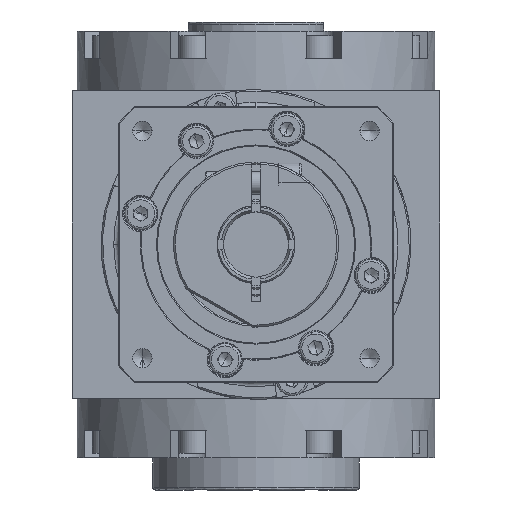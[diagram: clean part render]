
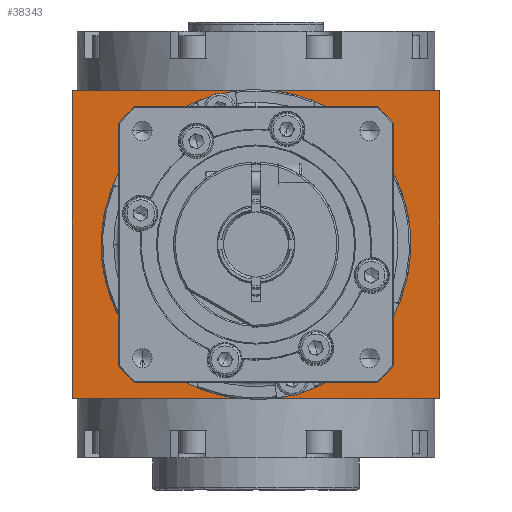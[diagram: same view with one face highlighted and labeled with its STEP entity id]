
A CAD part, front view. The second image highlights one B-rep face of the part: STEP entity #38343.
In plain terms, the highlighted planar face has unit normal (0, -1, 0).
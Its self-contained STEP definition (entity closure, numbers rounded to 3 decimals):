
#470 = ORIENTED_EDGE ( 'NONE', *, *, #11373, .T. ) ;
#1455 = ORIENTED_EDGE ( 'NONE', *, *, #3145, .T. ) ;
#2870 = VECTOR ( 'NONE', #5567, 1000. ) ;
#3145 = EDGE_CURVE ( 'NONE', #11934, #12409, #38295, .T. ) ;
#3760 = FACE_OUTER_BOUND ( 'NONE', #18130, .T. ) ;
#3943 = DIRECTION ( 'NONE',  ( 0., 0., -1. ) ) ;
#4432 = ORIENTED_EDGE ( 'NONE', *, *, #19892, .T. ) ;
#4690 = VECTOR ( 'NONE', #22491, 1000. ) ;
#5378 = EDGE_CURVE ( 'NONE', #27549, #11934, #16659, .T. ) ;
#5567 = DIRECTION ( 'NONE',  ( 0., 0., -1. ) ) ;
#6232 = DIRECTION ( 'NONE',  ( 1., 0., 0. ) ) ;
#6505 = CARTESIAN_POINT ( 'NONE',  ( 26.458, -40., -30. ) ) ;
#6642 = VERTEX_POINT ( 'NONE', #19797 ) ;
#7074 = DIRECTION ( 'NONE',  ( 0., 0., -1. ) ) ;
#7102 = CIRCLE ( 'NONE', #29799, 40. ) ;
#7135 = VECTOR ( 'NONE', #37434, 1000. ) ;
#7317 = CARTESIAN_POINT ( 'NONE',  ( -26.458, -40., -30. ) ) ;
#8192 = ORIENTED_EDGE ( 'NONE', *, *, #33681, .T. ) ;
#9883 = CARTESIAN_POINT ( 'NONE',  ( -40., -40., -33.5 ) ) ;
#10047 = VERTEX_POINT ( 'NONE', #18006 ) ;
#10769 = CARTESIAN_POINT ( 'NONE',  ( -40., -40., -30. ) ) ;
#10961 = LINE ( 'NONE', #20040, #7135 ) ;
#11017 = CARTESIAN_POINT ( 'NONE',  ( 40., -40., -33.5 ) ) ;
#11373 = EDGE_CURVE ( 'NONE', #33586, #6642, #31106, .T. ) ;
#11934 = VERTEX_POINT ( 'NONE', #23058 ) ;
#11948 = CARTESIAN_POINT ( 'NONE',  ( 0., -40., 0. ) ) ;
#12115 = CARTESIAN_POINT ( 'NONE',  ( -40., -40., 30. ) ) ;
#12246 = EDGE_CURVE ( 'NONE', #15401, #20362, #16681, .T. ) ;
#12409 = VERTEX_POINT ( 'NONE', #23150 ) ;
#12936 = AXIS2_PLACEMENT_3D ( 'NONE', #18936, #21690, #30804 ) ;
#13177 = VERTEX_POINT ( 'NONE', #14704 ) ;
#13980 = ORIENTED_EDGE ( 'NONE', *, *, #5378, .T. ) ;
#14294 = ORIENTED_EDGE ( 'NONE', *, *, #37254, .T. ) ;
#14496 = LINE ( 'NONE', #12115, #17949 ) ;
#14704 = CARTESIAN_POINT ( 'NONE',  ( 40., -40., 33.5 ) ) ;
#14725 = ORIENTED_EDGE ( 'NONE', *, *, #29733, .F. ) ;
#15113 = CARTESIAN_POINT ( 'NONE',  ( -30., -40., 26.458 ) ) ;
#15401 = VERTEX_POINT ( 'NONE', #6505 ) ;
#15984 = FACE_BOUND ( 'NONE', #16837, .T. ) ;
#16296 = ORIENTED_EDGE ( 'NONE', *, *, #34441, .T. ) ;
#16592 = AXIS2_PLACEMENT_3D ( 'NONE', #24510, #36770, #28261 ) ;
#16659 = CIRCLE ( 'NONE', #26725, 40. ) ;
#16681 = LINE ( 'NONE', #10769, #23611 ) ;
#16711 = ORIENTED_EDGE ( 'NONE', *, *, #36690, .T. ) ;
#16837 = EDGE_LOOP ( 'NONE', ( #1455, #14294, #36527, #31620, #4432, #470, #16711, #13980 ) ) ;
#17320 = DIRECTION ( 'NONE',  ( 0., 0., -1. ) ) ;
#17918 = EDGE_CURVE ( 'NONE', #13177, #10047, #37934, .T. ) ;
#17949 = VECTOR ( 'NONE', #38423, 1000. ) ;
#18006 = CARTESIAN_POINT ( 'NONE',  ( -40., -40., 33.5 ) ) ;
#18130 = EDGE_LOOP ( 'NONE', ( #16296, #8192, #14725, #32053 ) ) ;
#18927 = LINE ( 'NONE', #36730, #28422 ) ;
#18936 = CARTESIAN_POINT ( 'NONE',  ( 0., -40., 0. ) ) ;
#19797 = CARTESIAN_POINT ( 'NONE',  ( -26.458, -40., 30. ) ) ;
#19892 = EDGE_CURVE ( 'NONE', #23856, #33586, #10961, .T. ) ;
#20040 = CARTESIAN_POINT ( 'NONE',  ( -30., -40., -33.5 ) ) ;
#20298 = DIRECTION ( 'NONE',  ( 0., 1., 0. ) ) ;
#20358 = VECTOR ( 'NONE', #17320, 1000. ) ;
#20362 = VERTEX_POINT ( 'NONE', #7317 ) ;
#20608 = AXIS2_PLACEMENT_3D ( 'NONE', #9883, #22080, #3943 ) ;
#21690 = DIRECTION ( 'NONE',  ( 0., 1., 0. ) ) ;
#21739 = CARTESIAN_POINT ( 'NONE',  ( 26.458, -40., 30. ) ) ;
#21955 = DIRECTION ( 'NONE',  ( 0., 0., 1. ) ) ;
#22080 = DIRECTION ( 'NONE',  ( 0., -1., 0. ) ) ;
#22491 = DIRECTION ( 'NONE',  ( -1., 0., 0. ) ) ;
#22868 = CARTESIAN_POINT ( 'NONE',  ( -40., -40., 33.5 ) ) ;
#23058 = CARTESIAN_POINT ( 'NONE',  ( 30., -40., 26.458 ) ) ;
#23150 = CARTESIAN_POINT ( 'NONE',  ( 30., -40., -26.458 ) ) ;
#23237 = CARTESIAN_POINT ( 'NONE',  ( 30., -40., -33.5 ) ) ;
#23611 = VECTOR ( 'NONE', #32235, 1000. ) ;
#23856 = VERTEX_POINT ( 'NONE', #30957 ) ;
#23974 = VERTEX_POINT ( 'NONE', #11017 ) ;
#24510 = CARTESIAN_POINT ( 'NONE',  ( 0., -40., 0. ) ) ;
#26604 = CARTESIAN_POINT ( 'NONE',  ( 0., -40., 0. ) ) ;
#26725 = AXIS2_PLACEMENT_3D ( 'NONE', #11948, #37011, #21955 ) ;
#27549 = VERTEX_POINT ( 'NONE', #21739 ) ;
#28261 = DIRECTION ( 'NONE',  ( 0., 0., 1. ) ) ;
#28422 = VECTOR ( 'NONE', #7074, 1000. ) ;
#29450 = CARTESIAN_POINT ( 'NONE',  ( -40., -40., -33.5 ) ) ;
#29733 = EDGE_CURVE ( 'NONE', #13177, #23974, #18927, .T. ) ;
#29799 = AXIS2_PLACEMENT_3D ( 'NONE', #26604, #20298, #32340 ) ;
#29915 = VECTOR ( 'NONE', #6232, 1000. ) ;
#29952 = CIRCLE ( 'NONE', #12936, 40. ) ;
#30804 = DIRECTION ( 'NONE',  ( 0., 0., 1. ) ) ;
#30892 = LINE ( 'NONE', #31073, #29915 ) ;
#30957 = CARTESIAN_POINT ( 'NONE',  ( -30., -40., -26.458 ) ) ;
#31073 = CARTESIAN_POINT ( 'NONE',  ( 0., -40., -33.5 ) ) ;
#31106 = CIRCLE ( 'NONE', #16592, 40. ) ;
#31620 = ORIENTED_EDGE ( 'NONE', *, *, #31996, .T. ) ;
#31880 = CARTESIAN_POINT ( 'NONE',  ( -40., -40., -33.5 ) ) ;
#31996 = EDGE_CURVE ( 'NONE', #20362, #23856, #7102, .T. ) ;
#32053 = ORIENTED_EDGE ( 'NONE', *, *, #17918, .T. ) ;
#32235 = DIRECTION ( 'NONE',  ( -1., 0., 0. ) ) ;
#32340 = DIRECTION ( 'NONE',  ( 0., 0., 1. ) ) ;
#33586 = VERTEX_POINT ( 'NONE', #15113 ) ;
#33681 = EDGE_CURVE ( 'NONE', #38253, #23974, #30892, .T. ) ;
#34441 = EDGE_CURVE ( 'NONE', #10047, #38253, #35201, .T. ) ;
#35201 = LINE ( 'NONE', #29450, #2870 ) ;
#35843 = PLANE ( 'NONE',  #20608 ) ;
#36527 = ORIENTED_EDGE ( 'NONE', *, *, #12246, .T. ) ;
#36690 = EDGE_CURVE ( 'NONE', #6642, #27549, #14496, .T. ) ;
#36730 = CARTESIAN_POINT ( 'NONE',  ( 40., -40., -33.5 ) ) ;
#36770 = DIRECTION ( 'NONE',  ( 0., 1., 0. ) ) ;
#37011 = DIRECTION ( 'NONE',  ( 0., 1., 0. ) ) ;
#37254 = EDGE_CURVE ( 'NONE', #12409, #15401, #29952, .T. ) ;
#37434 = DIRECTION ( 'NONE',  ( 0., 0., 1. ) ) ;
#37934 = LINE ( 'NONE', #22868, #4690 ) ;
#38253 = VERTEX_POINT ( 'NONE', #31880 ) ;
#38295 = LINE ( 'NONE', #23237, #20358 ) ;
#38343 = ADVANCED_FACE ( 'NONE', ( #3760, #15984 ), #35843, .T. ) ;
#38423 = DIRECTION ( 'NONE',  ( 1., 0., 0. ) ) ;
